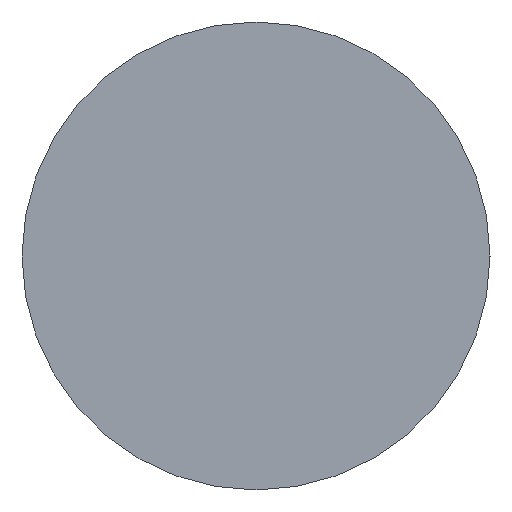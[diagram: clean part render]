
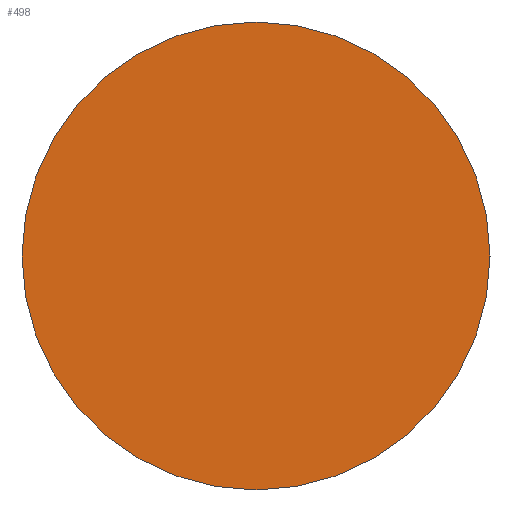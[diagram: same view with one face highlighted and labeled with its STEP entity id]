
A CAD part, left-side view. The second image highlights one B-rep face of the part: STEP entity #498.
In plain terms, the highlighted planar face has unit normal (-1, 0, 0).
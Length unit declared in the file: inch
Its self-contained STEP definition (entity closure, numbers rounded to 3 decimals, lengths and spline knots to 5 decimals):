
#11 = VERTEX_POINT ( 'NONE', #434 ) ;
#33 = EDGE_LOOP ( 'NONE', ( #463, #146 ) ) ;
#123 = DIRECTION ( 'NONE',  ( 0., 0., -1. ) ) ;
#132 = DIRECTION ( 'NONE',  ( 0., 0., 1. ) ) ;
#145 = CARTESIAN_POINT ( 'NONE',  ( -6., 0., 0. ) ) ;
#146 = ORIENTED_EDGE ( 'NONE', *, *, #212, .T. ) ;
#178 = CARTESIAN_POINT ( 'NONE',  ( -6., 0.375, 0. ) ) ;
#189 = CARTESIAN_POINT ( 'NONE',  ( -6., 0., -0.375 ) ) ;
#194 = VERTEX_POINT ( 'NONE', #189 ) ;
#212 = EDGE_CURVE ( 'NONE', #194, #11, #490, .T. ) ;
#225 = AXIS2_PLACEMENT_3D ( 'NONE', #145, #523, #132 ) ;
#314 = DIRECTION ( 'NONE',  ( 1., 0., 0. ) ) ;
#394 = DIRECTION ( 'NONE',  ( -1., 0., 0. ) ) ;
#407 = AXIS2_PLACEMENT_3D ( 'NONE', #178, #314, #123 ) ;
#434 = CARTESIAN_POINT ( 'NONE',  ( -6., 0., 0.375 ) ) ;
#439 = CARTESIAN_POINT ( 'NONE',  ( -6., 0., 0. ) ) ;
#447 = EDGE_CURVE ( 'NONE', #11, #194, #468, .T. ) ;
#463 = ORIENTED_EDGE ( 'NONE', *, *, #447, .T. ) ;
#468 = CIRCLE ( 'NONE', #550, 0.375 ) ;
#490 = CIRCLE ( 'NONE', #225, 0.375 ) ;
#498 = ADVANCED_FACE ( 'NONE', ( #603 ), #548, .F. ) ;
#513 = DIRECTION ( 'NONE',  ( 0., 0., 1. ) ) ;
#523 = DIRECTION ( 'NONE',  ( -1., 0., 0. ) ) ;
#548 = PLANE ( 'NONE',  #407 ) ;
#550 = AXIS2_PLACEMENT_3D ( 'NONE', #439, #394, #513 ) ;
#603 = FACE_OUTER_BOUND ( 'NONE', #33, .T. ) ;
